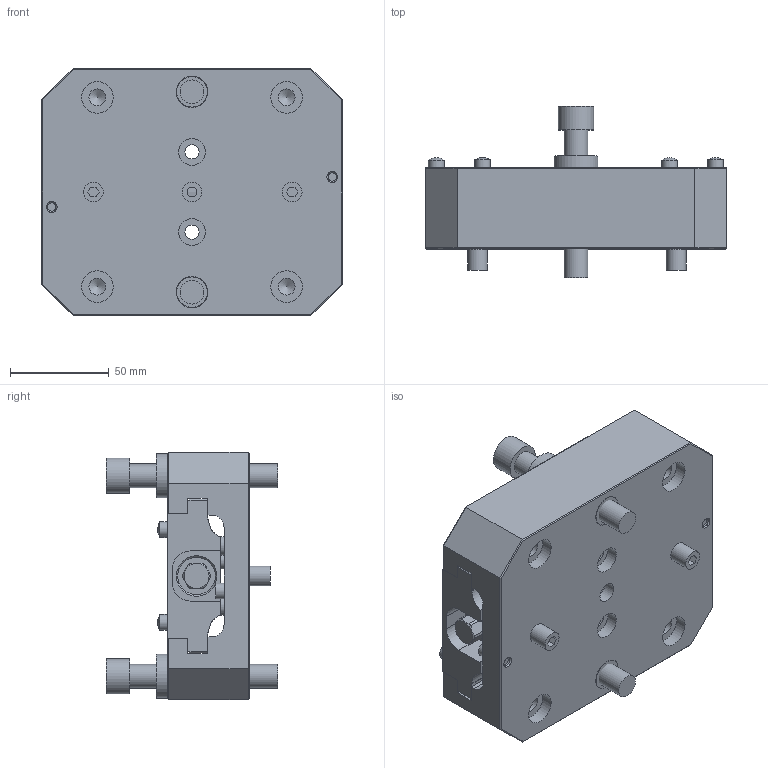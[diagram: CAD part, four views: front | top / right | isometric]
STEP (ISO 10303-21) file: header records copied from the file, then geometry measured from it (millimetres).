
FILE_DESCRIPTION (( 'STEP AP214' ), '1' );
FILE_NAME ('DV56_WEBSITE.STEP', '2025-08-11T10:42:14', ( '' ), ( '' ), 'SwSTEP 2.0', 'SolidWorks 2024', '' );
FILE_SCHEMA (( 'AUTOMOTIVE_DESIGN' ));
Length unit declared in the file: inch
Products named in the file (17): V562M-2_WEBSITE_FINAL RIGHT -2RDV; HW.M8X12.DP_WEBSITE_DEFAULT; V562M-2_WEBSITE_FINAL LEFT; DV56_WEBSITE; HW.76400_WEBSITE_91290A635; V562M-4_WEBSITE_V562M-4; 450-12_WEBSITE; HW.M8X12.EPSS_WEBSITE_92775A312; LP10_WEBSITE_LP10; LP8_WEBSITE_LP8; DV56^DV56_WEBSITE; HW.BASE.PLUG.M8-1.25_WEBSITE_90278A411; HW.LC049E03S_WEBSITE_DEFAULT; 76384_WEBSITE_91290A233; V562DV-1_WEBSITE_V562DV-1; HW.0875X0750.DB_WEBSITE_8491A501; HW.0375.FP_WEBSITE
Assembly tree (29 placements, depth 3):
  DV56_WEBSITE
    DV56^DV56_WEBSITE
      V562DV-1_WEBSITE_V562DV-1
      V562M-2_WEBSITE_FINAL RIGHT -2RDV
      V562M-2_WEBSITE_FINAL LEFT
      V562M-4_WEBSITE_V562M-4
      HW.BASE.PLUG.M8-1.25_WEBSITE_90278A411  x2
      HW.0875X0750.DB_WEBSITE_8491A501  x2
      HW.M8X12.DP_WEBSITE_DEFAULT  x4
      HW.LC049E03S_WEBSITE_DEFAULT  x2
      HW.M8X12.EPSS_WEBSITE_92775A312  x2
      HW.0375.FP_WEBSITE  x2
      LP8_WEBSITE_LP8  x2
      LP10_WEBSITE_LP10  x2
      76384_WEBSITE_91290A233  x2
      HW.76400_WEBSITE_91290A635  x2
      450-12_WEBSITE  x2
Bounding box: 152.4 x 87 x 125.73 mm (x, y, z)
Volume: 619565.4 mm3; surface area: 146897.2 mm2
Topology: 28 solids, 28 shells, 569 faces, 1268 edges, 800 vertices
Faces by surface type: plane 320, cylinder 139, cone 89, bspline 11, sphere 8, torus 2
Full cylindrical faces by diameter (mm): 3.454 x1, 4.166 x1, 4.2 x2, 4.743 x2, 5 x5, 5.5 x2, 5.969 x2, 6 x2, 6.8 x6, 7.137 x2, 7.992 x2, 8 x8, 8.019 x4, 8.128 x2, 8.5 x8, 8.912 x2, 9.144 x2, 9.474 x2, 9.576 x4, 9.957 x2, 10 x2, 10.013 x5, 10.2 x2, 12 x4, 13.487 x2, 13.894 x2, 14 x2, 14.288 x2, 16 x2, 16.015 x4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
Entity records: 15428 total; most frequent: CARTESIAN_POINT 4260, DIRECTION 2015, ORIENTED_EDGE 1736, EDGE_CURVE 868, AXIS2_PLACEMENT_3D 756, EDGE_LOOP 639, VERTEX_POINT 613, FACE_OUTER_BOUND 525
